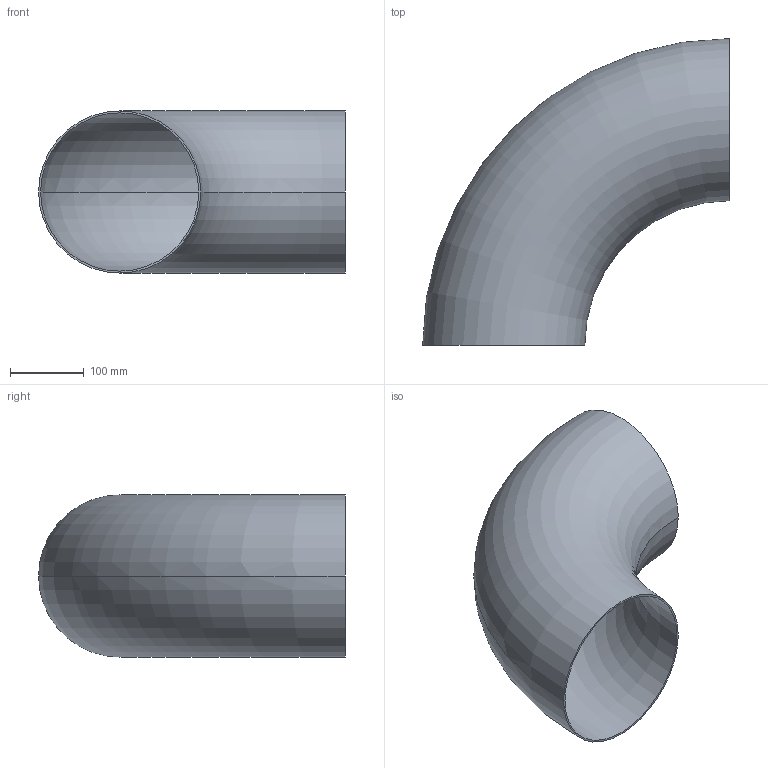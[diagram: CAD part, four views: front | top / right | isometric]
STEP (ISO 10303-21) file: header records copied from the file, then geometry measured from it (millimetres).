
FILE_DESCRIPTION (( 'STEP AP203' ), '1' );
FILE_NAME ('OT200-200-219_1x2_6_OSTP.step', '2020-12-16T02:57:25', ( '' ), ( '' ), 'SwSTEP 2.0', 'SolidWorks 2014', '' );
FILE_SCHEMA (( 'CONFIG_CONTROL_DESIGN' ));
Length unit declared in the file: millimetre
Products named in the file (1): OT200-200-219_1x2_6_OSTP
Bounding box: 414.55 x 414.55 x 219.1 mm (x, y, z)
Volume: 847229 mm3; surface area: 655251.5 mm2
Topology: 1 solids, 1 shells, 6 faces, 12 edges, 8 vertices
Faces by surface type: torus 4, plane 2
Entity records: 249 total; most frequent: DIRECTION 38, CARTESIAN_POINT 27, ORIENTED_EDGE 24, AXIS2_PLACEMENT_3D 19, EDGE_CURVE 12, CIRCLE 12, PERSON_AND_ORGANIZATION 8, VERTEX_POINT 8
